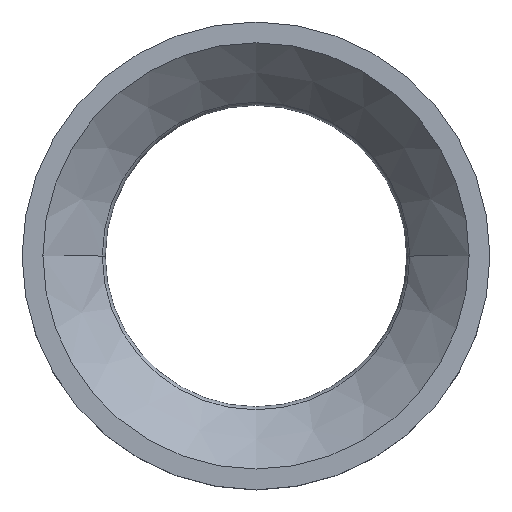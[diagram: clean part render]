
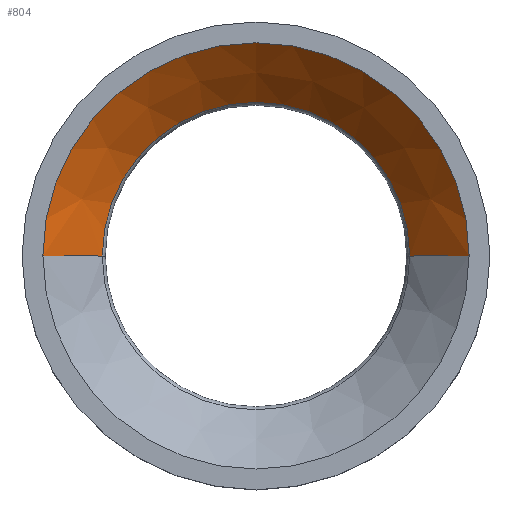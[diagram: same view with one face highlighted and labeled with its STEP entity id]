
A CAD part, top view. The second image highlights one B-rep face of the part: STEP entity #804.
In plain terms, the highlighted conical face has half-angle 45 degrees and reference radius 35.293 mm.
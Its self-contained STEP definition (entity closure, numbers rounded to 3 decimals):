
#112=DIRECTION('',(-0.707,0.,-0.707));
#113=VECTOR('',#112,16.142);
#114=CARTESIAN_POINT('',(41.,0.,22.));
#115=LINE('',#114,#113);
#116=CARTESIAN_POINT('',(0.,0.,
10.586));
#117=DIRECTION('',(0.,0.,1.));
#118=DIRECTION('',(1.,0.,0.));
#119=AXIS2_PLACEMENT_3D('',#116,#117,#118);
#121=DIRECTION('',(0.707,0.,-0.707));
#122=VECTOR('',#121,16.142);
#123=CARTESIAN_POINT('',(-41.,0.,
22.));
#124=LINE('',#123,#122);
#140=CARTESIAN_POINT('',(0.,0.,
22.));
#141=DIRECTION('',(0.,0.,-1.));
#142=DIRECTION('',(-1.,0.,0.));
#143=AXIS2_PLACEMENT_3D('',#140,#141,#142);
#519=CARTESIAN_POINT('',(41.,0.,
22.));
#520=CARTESIAN_POINT('',(-41.,0.,22.));
#521=VERTEX_POINT('',#519);
#522=VERTEX_POINT('',#520);
#527=CARTESIAN_POINT('',(-29.586,0.,
10.586));
#528=CARTESIAN_POINT('',(29.586,0.,10.586));
#529=VERTEX_POINT('',#527);
#530=VERTEX_POINT('',#528);
#792=CARTESIAN_POINT('',(0.,0.,
16.293));
#793=DIRECTION('',(0.,0.,1.));
#794=DIRECTION('',(0.,-1.,0.));
#795=AXIS2_PLACEMENT_3D('',#792,#793,#794);
#796=CONICAL_SURFACE('',#795,35.293,45.);
#797=ORIENTED_EDGE('',*,*,#757,.T.);
#798=ORIENTED_EDGE('',*,*,#787,.F.);
#800=ORIENTED_EDGE('',*,*,#799,.T.);
#801=ORIENTED_EDGE('',*,*,#783,.T.);
#802=EDGE_LOOP('',(#797,#798,#800,#801));
#803=FACE_OUTER_BOUND('',#802,.F.);
#120=CIRCLE('',#119,29.586);
#144=CIRCLE('',#143,41.);
#757=EDGE_CURVE('',#530,#529,#120,.T.);
#783=EDGE_CURVE('',#521,#530,#115,.T.);
#787=EDGE_CURVE('',#522,#529,#124,.T.);
#799=EDGE_CURVE('',#522,#521,#144,.T.);
#804=ADVANCED_FACE('',(#803),#796,.F.);
